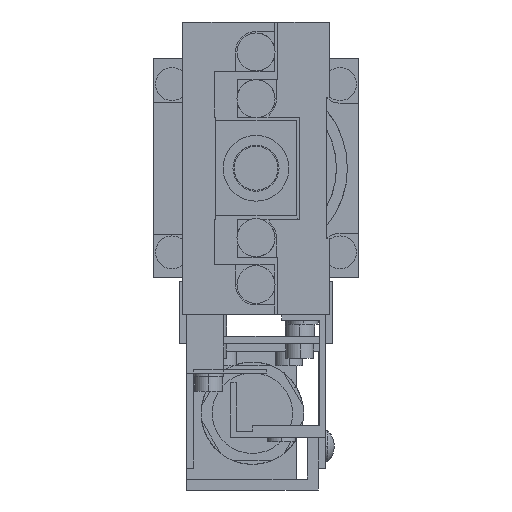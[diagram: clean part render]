
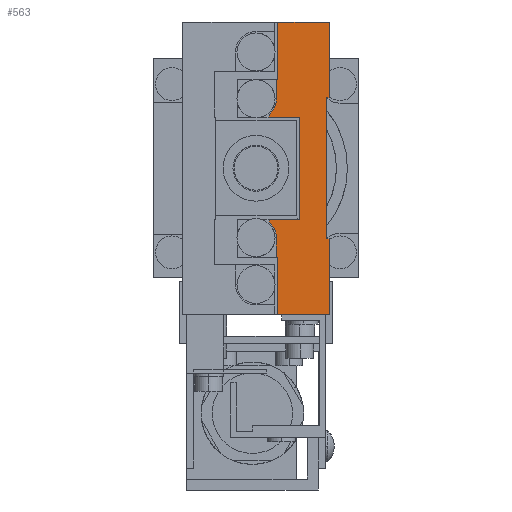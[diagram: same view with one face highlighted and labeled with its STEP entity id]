
A CAD part, left-side view. The second image highlights one B-rep face of the part: STEP entity #563.
In plain terms, the highlighted planar face has unit normal (-1, 0, 0).
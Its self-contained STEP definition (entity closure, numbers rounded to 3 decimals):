
#563=ADVANCED_FACE('',(#1577),#1578,.F.);
#1577=FACE_OUTER_BOUND('',#3139,.T.);
#1578=PLANE('',#3140);
#3139=EDGE_LOOP('',(#6119,#6120,#6121,#6122,#6123,#6124,#6125,#6126,#6127,#6128,#6129,#6130,#6131,#6132,#6133,#6134,#6135,#6136,#6137,#6138));
#3140=AXIS2_PLACEMENT_3D('',#6139,#6140,#6141);
#6119=ORIENTED_EDGE('',*,*,#10619,.T.);
#6120=ORIENTED_EDGE('',*,*,#10683,.T.);
#6121=ORIENTED_EDGE('',*,*,#10628,.T.);
#6122=ORIENTED_EDGE('',*,*,#10743,.F.);
#6123=ORIENTED_EDGE('',*,*,#10744,.F.);
#6124=ORIENTED_EDGE('',*,*,#10665,.F.);
#6125=ORIENTED_EDGE('',*,*,#10734,.F.);
#6126=ORIENTED_EDGE('',*,*,#10745,.F.);
#6127=ORIENTED_EDGE('',*,*,#10607,.F.);
#6128=ORIENTED_EDGE('',*,*,#10658,.F.);
#6129=ORIENTED_EDGE('',*,*,#10746,.F.);
#6130=ORIENTED_EDGE('',*,*,#10693,.F.);
#6131=ORIENTED_EDGE('',*,*,#10672,.F.);
#6132=ORIENTED_EDGE('',*,*,#10747,.F.);
#6133=ORIENTED_EDGE('',*,*,#10748,.T.);
#6134=ORIENTED_EDGE('',*,*,#10680,.T.);
#6135=ORIENTED_EDGE('',*,*,#10636,.T.);
#6136=ORIENTED_EDGE('',*,*,#10700,.F.);
#6137=ORIENTED_EDGE('',*,*,#10613,.F.);
#6138=ORIENTED_EDGE('',*,*,#10749,.F.);
#6139=CARTESIAN_POINT('',(-20.0,0.,0.0));
#6140=DIRECTION('',(1.0,0.0,0.0));
#6141=DIRECTION('',(0.0,1.0,0.0));
#10607=EDGE_CURVE('',#12819,#12821,#12822,.T.);
#10613=EDGE_CURVE('',#12830,#12832,#12833,.T.);
#10619=EDGE_CURVE('',#12842,#12843,#12844,.T.);
#10628=EDGE_CURVE('',#12856,#12857,#12858,.T.);
#10636=EDGE_CURVE('',#12872,#12873,#12874,.T.);
#10658=EDGE_CURVE('',#12903,#12819,#12905,.T.);
#10665=EDGE_CURVE('',#12917,#12913,#12919,.T.);
#10672=EDGE_CURVE('',#12928,#12930,#12931,.T.);
#10680=EDGE_CURVE('',#12942,#12872,#12943,.T.);
#10683=EDGE_CURVE('',#12843,#12856,#12947,.T.);
#10693=EDGE_CURVE('',#12930,#12962,#12963,.T.);
#10700=EDGE_CURVE('',#12832,#12873,#12970,.T.);
#10734=EDGE_CURVE('',#13017,#12917,#13019,.T.);
#10743=EDGE_CURVE('',#13028,#12857,#13030,.T.);
#10744=EDGE_CURVE('',#12913,#13028,#13031,.T.);
#10745=EDGE_CURVE('',#12821,#13017,#13032,.T.);
#10746=EDGE_CURVE('',#12962,#12903,#13033,.T.);
#10747=EDGE_CURVE('',#13034,#12928,#13035,.T.);
#10748=EDGE_CURVE('',#13034,#12942,#13036,.T.);
#10749=EDGE_CURVE('',#12842,#12830,#13037,.T.);
#12819=VERTEX_POINT('',#16192);
#12821=VERTEX_POINT('',#16195);
#12822=LINE('',#16196,#16197);
#12830=VERTEX_POINT('',#16208);
#12832=VERTEX_POINT('',#16211);
#12833=LINE('',#16212,#16213);
#12842=VERTEX_POINT('',#16225);
#12843=VERTEX_POINT('',#16226);
#12844=LINE('',#16227,#16228);
#12856=VERTEX_POINT('',#16243);
#12857=VERTEX_POINT('',#16244);
#12858=LINE('',#16245,#16246);
#12872=VERTEX_POINT('',#16267);
#12873=VERTEX_POINT('',#16268);
#12874=LINE('',#16269,#16270);
#12903=VERTEX_POINT('',#16304);
#12905=LINE('',#16307,#16308);
#12913=VERTEX_POINT('',#16318);
#12917=VERTEX_POINT('',#16324);
#12919=LINE('',#16327,#16328);
#12928=VERTEX_POINT('',#16340);
#12930=VERTEX_POINT('',#16343);
#12931=LINE('',#16344,#16345);
#12942=VERTEX_POINT('',#16363);
#12943=CIRCLE('',#16364,2.8);
#12947=CIRCLE('',#16369,2.8);
#12962=VERTEX_POINT('',#16387);
#12963=LINE('',#16388,#16389);
#12970=LINE('',#16402,#16403);
#13017=VERTEX_POINT('',#16476);
#13019=LINE('',#16479,#16480);
#13028=VERTEX_POINT('',#16492);
#13030=LINE('',#16495,#16496);
#13031=LINE('',#16497,#16498);
#13032=LINE('',#16499,#16500);
#13033=LINE('',#16501,#16502);
#13034=VERTEX_POINT('',#16503);
#13035=LINE('',#16504,#16505);
#13036=LINE('',#16506,#16507);
#13037=LINE('',#16508,#16509);
#16192=CARTESIAN_POINT('',(-20.0,0.35,9.65));
#16195=CARTESIAN_POINT('',(-20.0,0.35,-9.65));
#16196=CARTESIAN_POINT('',(-20.0,0.35,9.65));
#16197=VECTOR('',#20441,1000.0);
#16208=CARTESIAN_POINT('',(-20.0,4.0,-7.0));
#16211=CARTESIAN_POINT('',(-20.0,4.0,7.0));
#16212=CARTESIAN_POINT('',(-20.0,4.0,-7.0));
#16213=VECTOR('',#20449,1000.0);
#16225=CARTESIAN_POINT('',(-20.0,8.2,-7.0));
#16226=CARTESIAN_POINT('',(-20.0,8.2,-7.355));
#16227=CARTESIAN_POINT('',(-20.0,8.2,-7.0));
#16228=VECTOR('',#20459,1000.0);
#16243=CARTESIAN_POINT('',(-20.0,7.2,-9.5));
#16244=CARTESIAN_POINT('',(-20.0,7.2,-12.2));
#16245=CARTESIAN_POINT('',(-20.0,7.2,-9.5));
#16246=VECTOR('',#20478,1000.0);
#16267=CARTESIAN_POINT('',(-20.0,8.2,7.355));
#16268=CARTESIAN_POINT('',(-20.0,8.2,7.0));
#16269=CARTESIAN_POINT('',(-20.0,8.2,7.355));
#16270=VECTOR('',#20486,1000.0);
#16304=CARTESIAN_POINT('',(-20.0,0.,9.65));
#16307=CARTESIAN_POINT('',(-20.0,0.,9.65));
#16308=VECTOR('',#20538,1000.0);
#16318=CARTESIAN_POINT('',(-20.0,7.0,-20.0));
#16324=CARTESIAN_POINT('',(-20.0,0.,-20.0));
#16327=CARTESIAN_POINT('',(-20.0,0.,-20.0));
#16328=VECTOR('',#20547,1000.0);
#16340=CARTESIAN_POINT('',(-20.0,7.0,12.2));
#16343=CARTESIAN_POINT('',(-20.0,7.0,20.0));
#16344=CARTESIAN_POINT('',(-20.0,7.0,12.2));
#16345=VECTOR('',#20558,1000.0);
#16363=CARTESIAN_POINT('',(-20.0,7.2,9.5));
#16364=AXIS2_PLACEMENT_3D('',#20566,#20567,#20568);
#16369=AXIS2_PLACEMENT_3D('',#20573,#20574,#20575);
#16387=CARTESIAN_POINT('',(-20.0,0.,20.0));
#16388=CARTESIAN_POINT('',(-20.0,7.0,20.0));
#16389=VECTOR('',#20597,1000.0);
#16402=CARTESIAN_POINT('',(-20.0,4.0,7.0));
#16403=VECTOR('',#20604,1000.0);
#16476=CARTESIAN_POINT('',(-20.0,0.,-9.65));
#16479=CARTESIAN_POINT('',(-20.0,0.,-9.65));
#16480=VECTOR('',#20650,1000.0);
#16492=CARTESIAN_POINT('',(-20.0,7.0,-12.2));
#16495=CARTESIAN_POINT('',(-20.0,7.0,-12.2));
#16496=VECTOR('',#20667,1000.0);
#16497=CARTESIAN_POINT('',(-20.0,7.0,-20.0));
#16498=VECTOR('',#20668,1000.0);
#16499=CARTESIAN_POINT('',(-20.0,0.35,-9.65));
#16500=VECTOR('',#20669,1000.0);
#16501=CARTESIAN_POINT('',(-20.0,0.,20.0));
#16502=VECTOR('',#20670,1000.0);
#16503=CARTESIAN_POINT('',(-20.0,7.2,12.2));
#16504=CARTESIAN_POINT('',(-20.0,12.5,12.2));
#16505=VECTOR('',#20671,1000.0);
#16506=CARTESIAN_POINT('',(-20.0,7.2,12.2));
#16507=VECTOR('',#20672,1000.0);
#16508=CARTESIAN_POINT('',(-20.0,12.5,-7.0));
#16509=VECTOR('',#20673,1000.0);
#20441=DIRECTION('',(0.0,0.0,-1.0));
#20449=DIRECTION('',(0.0,0.0,1.0));
#20459=DIRECTION('',(0.0,0.0,-1.0));
#20478=DIRECTION('',(0.0,0.0,-1.0));
#20486=DIRECTION('',(0.0,0.0,-1.0));
#20538=DIRECTION('',(0.0,1.0,0.0));
#20547=DIRECTION('',(0.0,1.0,0.0));
#20558=DIRECTION('',(0.0,0.,1.0));
#20566=CARTESIAN_POINT('',(-20.0,10.0,9.5));
#20567=DIRECTION('',(1.0,0.0,0.0));
#20568=DIRECTION('',(0.0,0.0,-1.0));
#20573=CARTESIAN_POINT('',(-20.0,10.0,-9.5));
#20574=DIRECTION('',(1.0,0.0,0.0));
#20575=DIRECTION('',(0.0,0.0,-1.0));
#20597=DIRECTION('',(0.0,-1.0,0.0));
#20604=DIRECTION('',(0.0,1.0,0.0));
#20650=DIRECTION('',(0.0,0.0,-1.0));
#20667=DIRECTION('',(0.0,1.0,0.0));
#20668=DIRECTION('',(0.0,0.,1.0));
#20669=DIRECTION('',(0.0,-1.0,0.0));
#20670=DIRECTION('',(0.0,0.0,-1.0));
#20671=DIRECTION('',(0.0,-1.0,0.));
#20672=DIRECTION('',(0.0,0.0,-1.0));
#20673=DIRECTION('',(0.0,-1.0,0.0));
